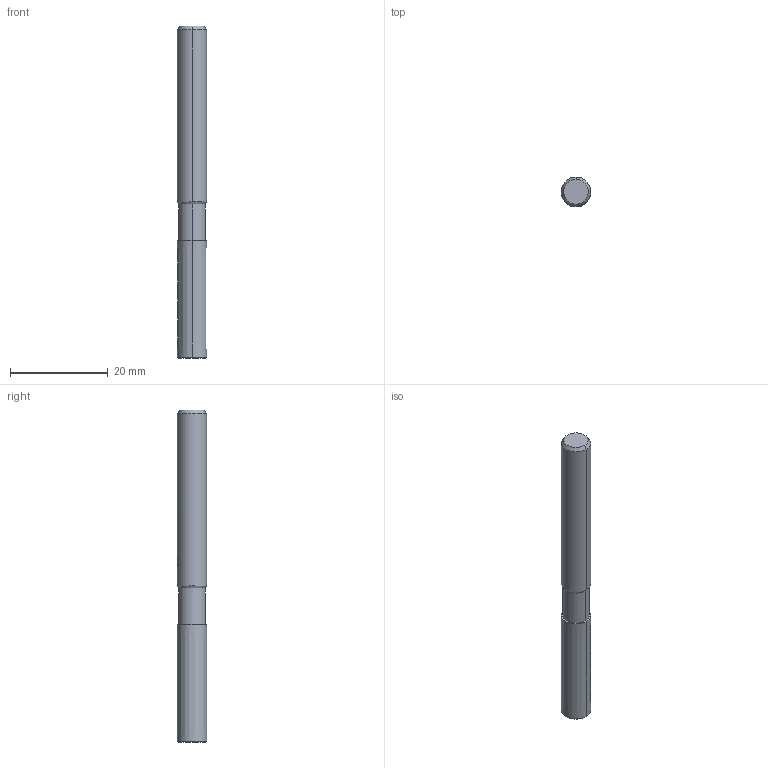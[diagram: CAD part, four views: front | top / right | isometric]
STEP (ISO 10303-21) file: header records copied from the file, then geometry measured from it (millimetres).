
FILE_DESCRIPTION(('no description'),'unknown implementation level');
FILE_NAME('solid0n8qoNylgXRGx7tZoUU0fKWr01Y_1.STP',' ',('CIMSOURCE GmbH'),('CADClick - KiM GmbH - www.kimweb.de'),'unknown preprocess','ACIS','unknown authorization');
FILE_SCHEMA(('automotive_design'));
Length unit declared in the file: millimetre
Products named in the file (2): NOCUT; CUT
Bounding box: 6 x 6 x 68 mm (x, y, z)
Volume: 1883.6 mm3; surface area: 1812.9 mm2
Topology: 2 solids, 2 shells, 43 faces, 97 edges, 60 vertices
Faces by surface type: cone 16, cylinder 16, plane 11
Entity records: 2584 total; most frequent: CARTESIAN_POINT 422, DIRECTION 221, STYLED_ITEM 202, PRESENTATION_STYLE_ASSIGNMENT 202, COLOUR_RGB 202, ORIENTED_EDGE 194, EDGE_CURVE 97, CURVE_STYLE 97
